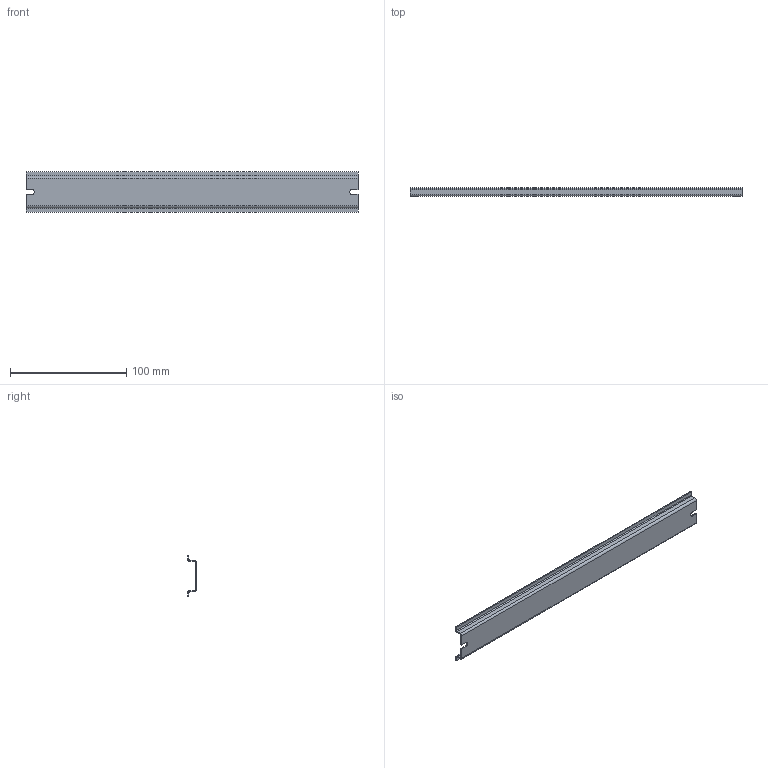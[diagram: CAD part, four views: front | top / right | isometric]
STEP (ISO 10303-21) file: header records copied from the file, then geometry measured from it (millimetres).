
FILE_DESCRIPTION((''),'2;1');
FILE_NAME('DR35275_4','2009-03-16T',('pavel_leivo'),(''),'PRO/ENGINEER BY PARAMETRIC TECHNOLOGY CORPORATION, 2008250','PRO/ENGINEER BY PARAMETRIC TECHNOLOGY CORPORATION, 2008250','');
FILE_SCHEMA(('AUTOMOTIVE_DESIGN_CC2 { 1 2 10303 214 -1 1 5 2 }'));
Length unit declared in the file: millimetre
Products named in the file (1): DR35275_4
Bounding box: 285 x 7.5 x 35 mm (x, y, z)
Volume: 12988.1 mm3; surface area: 26662.5 mm2
Topology: 1 solids, 1 shells, 30 faces, 84 edges, 56 vertices
Faces by surface type: plane 20, cylinder 10
Entity records: 1181 total; most frequent: COLOUR_RGB 200, CARTESIAN_POINT 170, ORIENTED_EDGE 168, DIRECTION 164, EDGE_CURVE 84, VECTOR 64, LINE 64, VERTEX_POINT 56
